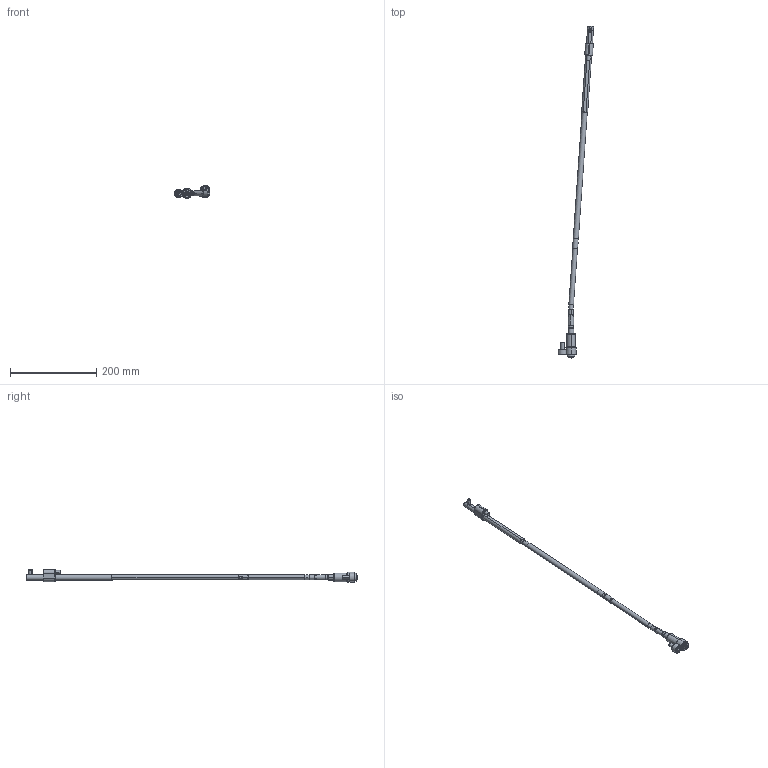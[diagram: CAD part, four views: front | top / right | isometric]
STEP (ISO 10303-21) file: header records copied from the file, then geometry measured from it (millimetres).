
FILE_DESCRIPTION (( 'STEP AP214' ), '1' );
FILE_NAME ('WL120125-EJE 4°.STEP', '2021-03-19T15:38:34', ( '' ), ( '' ), 'SwSTEP 2.0', 'SolidWorks 2019', '' );
FILE_SCHEMA (( 'AUTOMOTIVE_DESIGN' ));
Length unit declared in the file: millimetre
Products named in the file (17): Web-WL12-F01; Web-WL12-A3; WL120100-E; WL120100-B1; Web-WL12-A2; 3IMAN5X3-150_con sellador; 9DR2808-TOR; Web-WL12-XX_ON-WL120125-4; 1DIN912820_DIN 912 M8 x 20 --- 20C; Web-WL12-A1; Web-WL12-F00.SLDPRT; 1DIN912645_DIN 912 M6 x 45 --- 45C; WL120100-D; 8WL12EJEP; WL120125-EJE 4°; WL120100-B; Web-WL12-A8
Assembly tree (16 placements, depth 3):
  WL120125-EJE 4°
    Web-WL12-A8
    Web-WL12-XX_ON-WL120125-4
    Web-WL12-A3
    Web-WL12-A2
    Web-WL12-A1
    Web-WL12-F00.SLDPRT
      Web-WL12-F01
      1DIN912820_DIN 912 M8 x 20 --- 20C
      1DIN912645_DIN 912 M6 x 45 --- 45C
    WL120100-D
    8WL12EJEP
    WL120100-E
    9DR2808-TOR
    WL120100-B
      WL120100-B1
      3IMAN5X3-150_con sellador
Bounding box: 82 x 771.87 x 29.9 mm (x, y, z)
Volume: 116547.9 mm3; surface area: 51029.8 mm2
Topology: 15 solids, 15 shells, 432 faces, 906 edges, 525 vertices
Faces by surface type: plane 139, cylinder 123, cone 120, torus 50
Entity records: 13661 total; most frequent: DIRECTION 2240, CARTESIAN_POINT 2104, ORIENTED_EDGE 1788, AXIS2_PLACEMENT_3D 929, EDGE_CURVE 894, VERTEX_POINT 525, EDGE_LOOP 477, CIRCLE 476
